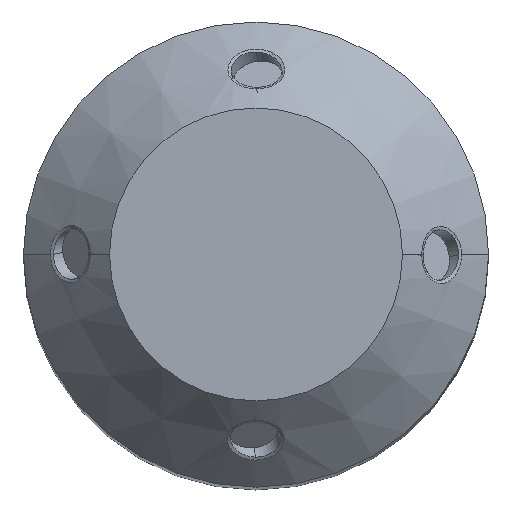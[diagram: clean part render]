
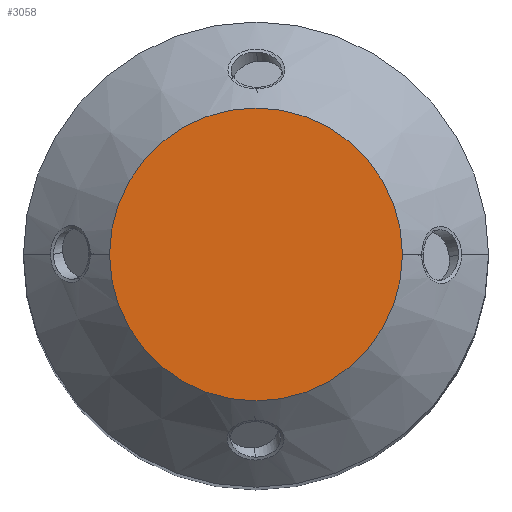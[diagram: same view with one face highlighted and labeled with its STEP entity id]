
A CAD part, top view. The second image highlights one B-rep face of the part: STEP entity #3058.
In plain terms, the highlighted planar face has unit normal (0, 0, 1).
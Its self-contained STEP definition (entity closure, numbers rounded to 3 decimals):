
#113 = EDGE_CURVE ( 'NONE', #1368, #2627, #2700, .T. ) ;
#178 = AXIS2_PLACEMENT_3D ( 'NONE', #3580, #5376, #4915 ) ;
#189 = CARTESIAN_POINT ( 'NONE',  ( 0., 0., 100. ) ) ;
#391 = EDGE_CURVE ( 'NONE', #2627, #1368, #3636, .T. ) ;
#1368 = VERTEX_POINT ( 'NONE', #3856 ) ;
#1419 = DIRECTION ( 'NONE',  ( 1., 0., 0. ) ) ;
#1830 = CARTESIAN_POINT ( 'NONE',  ( 0., 0., 100. ) ) ;
#2181 = CARTESIAN_POINT ( 'NONE',  ( 8.5, 0., 100. ) ) ;
#2301 = PLANE ( 'NONE',  #5128 ) ;
#2627 = VERTEX_POINT ( 'NONE', #2181 ) ;
#2700 = CIRCLE ( 'NONE', #178, 8.5 ) ;
#3058 = ADVANCED_FACE ( 'NONE', ( #4977 ), #2301, .T. ) ;
#3481 = ORIENTED_EDGE ( 'NONE', *, *, #391, .T. ) ;
#3526 = ORIENTED_EDGE ( 'NONE', *, *, #113, .T. ) ;
#3580 = CARTESIAN_POINT ( 'NONE',  ( 0., 0., 100. ) ) ;
#3636 = CIRCLE ( 'NONE', #4927, 8.5 ) ;
#3766 = DIRECTION ( 'NONE',  ( 1., 0., 0. ) ) ;
#3856 = CARTESIAN_POINT ( 'NONE',  ( -8.5, 0., 100. ) ) ;
#4083 = DIRECTION ( 'NONE',  ( 0., 0., 1. ) ) ;
#4854 = EDGE_LOOP ( 'NONE', ( #3526, #3481 ) ) ;
#4915 = DIRECTION ( 'NONE',  ( 1., 0., 0. ) ) ;
#4927 = AXIS2_PLACEMENT_3D ( 'NONE', #189, #5152, #3766 ) ;
#4977 = FACE_OUTER_BOUND ( 'NONE', #4854, .T. ) ;
#5128 = AXIS2_PLACEMENT_3D ( 'NONE', #1830, #4083, #1419 ) ;
#5152 = DIRECTION ( 'NONE',  ( 0., 0., 1. ) ) ;
#5376 = DIRECTION ( 'NONE',  ( 0., 0., 1. ) ) ;
